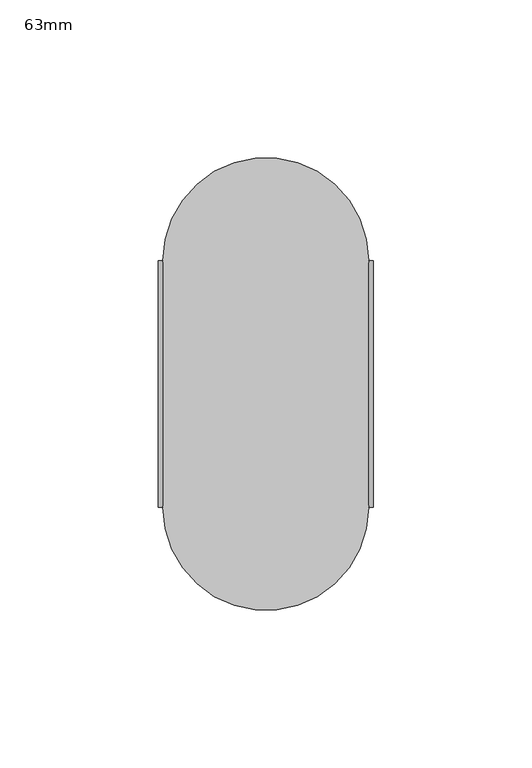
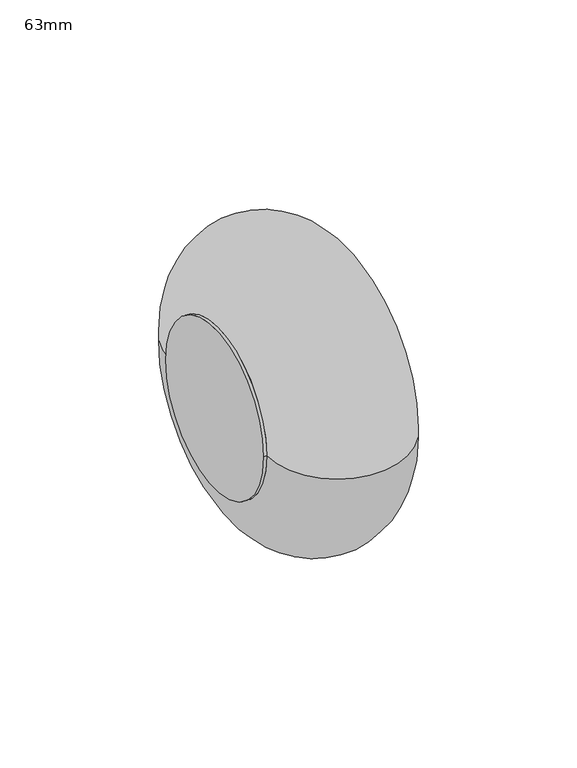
"""IFC4 building model written with IfcOpenShell, lengths in millimetres: pipe fitting geometry, PipeAccessory_HTA_CPVC_LinearExpansionCompensatorPN16 : 63mm."""

from ifc_helpers import new_model, si_unit, point, frame, origin, origin_2d, place, context, project, spatial, circle_curve, ellipse_curve, trimmed, segment, composite_curve, outline, extrude, source, transform, mapped, element, save
from ifc_brep_helpers import plane_surface, revolved_surface, advanced_brep


def pipe_fitting_63mm_6bf5f365(model_context):
    return source(origin(), model_context, "Body", "SolidModel", [
        extrude(outline(composite_curve([segment(trimmed(circle_curve(origin_2d(), 39.0), [point((-39.0, 0.0))], [point((39.0, 0.0))], False, "CARTESIAN"), True, "CONTINUOUS"), segment(trimmed(circle_curve(origin_2d(), 39.0), [point((39.0, 0.0))], [point((-39.0, 0.0))], False, "CARTESIAN"), True, "CONTINUOUS")], self_intersect=False)), frame((32.5, 0.0, 0.0), z_axis=(1.0, 0.0, 0.0), x_axis=(0.0, 1.0, 0.0)), (0.0, 0.0, 1.0), 1.5),
        extrude(outline(composite_curve([segment(trimmed(circle_curve(origin_2d(), 39.0), [point((-39.0, 0.0))], [point((39.0, 0.0))], False, "CARTESIAN"), True, "CONTINUOUS"), segment(trimmed(circle_curve(origin_2d(), 39.0), [point((39.0, 0.0))], [point((-39.0, 0.0))], False, "CARTESIAN"), True, "CONTINUOUS")], self_intersect=False)), frame((-34.0, 0.0, 0.0), z_axis=(1.0, 0.0, 0.0), x_axis=(0.0, 1.0, 0.0)), (0.0, 0.0, 1.0), 1.5),
        advanced_brep(
        [(-32.5, 0.0, 0.0), (-32.5, 39.0, 0.0), (-32.5, -39.0, 0.0), (32.5, -39.0, 0.0), (32.5, 39.0, 0.0), (32.5, 0.0, 0.0)],
        [
            (0, 1),
            (1, 2, circle_curve(frame((-32.5, 0.0, 0.0), z_axis=(-1.0, 0.0, 0.0), x_axis=(0.0, 1.0, 0.0)), 39.0)),
            (2, 0),
            (2, 1, circle_curve(frame((-32.5, 0.0, 0.0), z_axis=(-1.0, 0.0, 0.0), x_axis=(0.0, 1.0, 0.0)), 39.0)),
            (3, 4, circle_curve(frame((32.5, 0.0, 0.0), z_axis=(1.0, 0.0, 0.0), x_axis=(0.0, 1.0, 0.0)), 39.0)),
            (4, 5),
            (5, 3),
            (4, 3, circle_curve(frame((32.5, 0.0, 0.0), z_axis=(1.0, 0.0, 0.0), x_axis=(0.0, 1.0, 0.0)), 39.0)),
            (1, 4, circle_curve(frame((0.0, 39.0, 0.0), z_axis=(0.0, 0.0, -1.0), x_axis=(1.0, 0.0, 0.0)), 32.5)),
            (3, 2, circle_curve(frame((0.0, -39.0, 0.0), z_axis=(0.0, 0.0, -1.0), x_axis=(1.0, 0.0, 0.0)), 32.5)),
        ],
        [
            plane_surface(frame((-32.5, 0.0, 0.0), z_axis=(-1.0, 0.0, 0.0), x_axis=(0.0, 1.0, 0.0))),
            plane_surface(frame((32.5, 0.0, 0.0), z_axis=(1.0, 0.0, 0.0), x_axis=(0.0, 1.0, 0.0))),
            revolved_surface(trimmed(ellipse_curve(frame((0.0, 39.0, 0.0), z_axis=(0.0, 0.0, 1.0), x_axis=(1.0, 0.0, 0.0)), 32.5, 32.5), [point((32.5, 39.0, 0.0))], [point((-32.5, 39.0, 0.0))], True, "CARTESIAN"), (-32.5, 0.0, 0.0), (-1.0, 0.0, 0.0)),
        ],
        [
            (0, [[1, 2, 3]]),
            (0, [[-3, 4, -1]]),
            (1, [[5, 6, 7]]),
            (1, [[8, -7, -6]]),
            (2, [[-2, 9, -5, 10]]),
            (2, [[-4, -10, -8, -9]]),
        ],
    ),
    ])


if __name__ == "__main__":
    model = new_model("IFC4")
    model_context = context("Model", 3, world=origin())
    ifc_project = project(units=[si_unit("LENGTHUNIT", "METRE", prefix="MILLI")], contexts=[model_context])
    site = spatial("IfcSite", under=ifc_project)
    building = spatial("IfcBuilding", under=site)
    placement = place(None, origin())
    pipe_fitting_63mm_shape = pipe_fitting_63mm_6bf5f365(model_context)
    element("IfcPipeFitting", 1, ObjectType="PipeAccessory_HTA_CPVC_LinearExpansionCompensatorPN16 : 63mm", at=placement, inside=building, context=model_context, shape_type="MappedRepresentation", body=[
        mapped(pipe_fitting_63mm_shape, transform((0.0, 0.0, 0.0), x_axis=(1.0, 0.0, 0.0), y_axis=(0.0, 1.0, 0.0), z_axis=(0.0, 0.0, 1.0))),
    ])
    save(model, "model.ifc")
